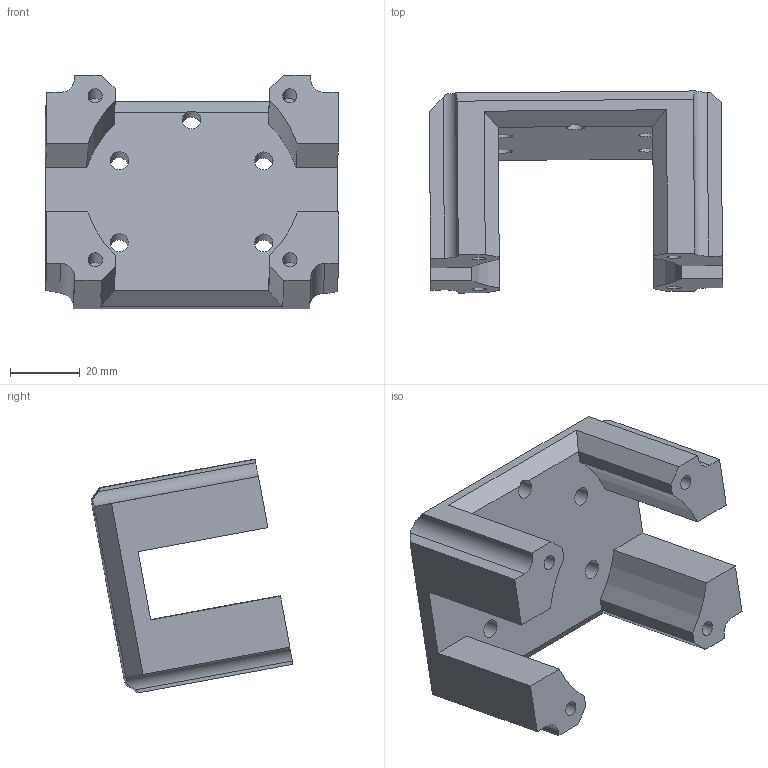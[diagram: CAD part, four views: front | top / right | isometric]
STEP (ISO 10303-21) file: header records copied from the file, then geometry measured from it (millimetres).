
FILE_DESCRIPTION(/* description */ (''),/* implementation_level */ '2;1');
FILE_NAME(/* name */ 'wrist.step',/* time_stamp */ '2026-06-03T23:48:57+01:00',/* author */ (''),/* organization */ (''),/* preprocessor_version */ 'ST-DEVELOPER v20.1',/* originating_system */ 'Autodesk Translation Framework v15.8.0.0',/* authorisation */ '');
FILE_SCHEMA (('AUTOMOTIVE_DESIGN { 1 0 10303 214 3 1 1 }'));
Length unit declared in the file: millimetre
Products named in the file (1): wrist
Bounding box: 84.4 x 58.08 x 67.17 mm (x, y, z)
Volume: 89078.7 mm3; surface area: 23875.2 mm2
Topology: 1 solids, 1 shells, 57 faces, 152 edges, 100 vertices
Faces by surface type: plane 40, cylinder 17
Full cylindrical faces by diameter (mm): 4.1 x4, 5.3 x5
Entity records: 1829 total; most frequent: DIRECTION 310, CARTESIAN_POINT 310, ORIENTED_EDGE 304, EDGE_CURVE 152, LINE 110, VECTOR 110, VERTEX_POINT 100, AXIS2_PLACEMENT_3D 100
